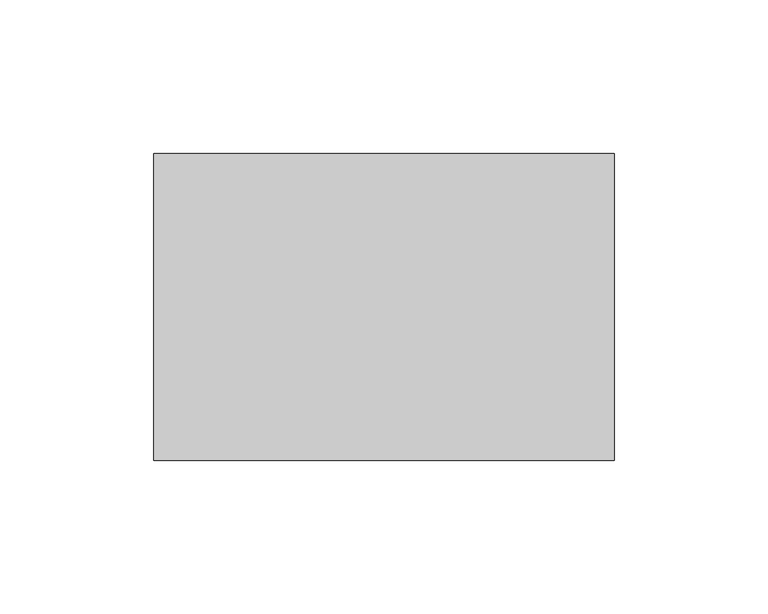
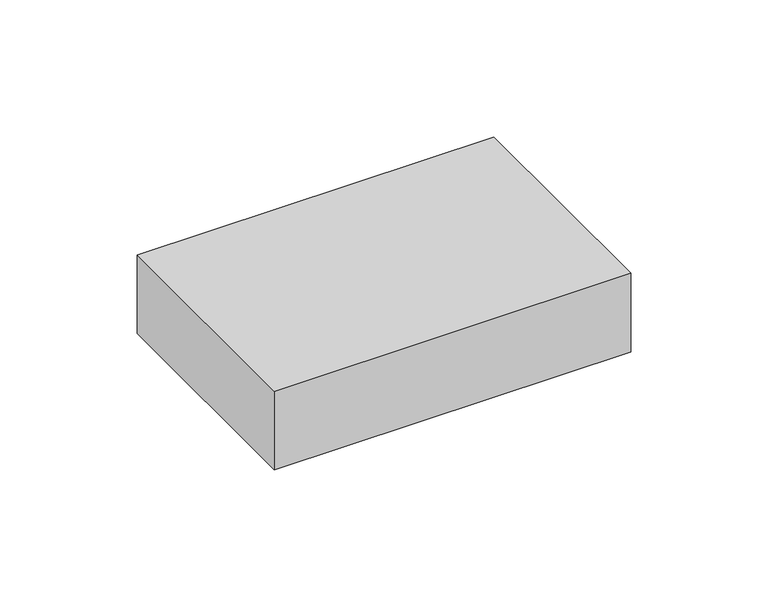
"""IFC4 building model written with IfcOpenShell, lengths in millimetres: furniture geometry, Pixel_Multiple : Pixel_Multiple."""

from ifc_helpers import new_model, si_unit, origin, origin_with_axes, place, context, project, spatial, polyline, outline, extrude, source, transform, mapped, element, save


def furniture_21a6de4b(model_context):
    return source(origin(), model_context, "Body", "SweptSolid", [
        extrude(outline(polyline([(150.0, 0.0), (0.0, 0.0), (0.0, 100.0), (150.0, 100.0), (150.0, 0.0)])), origin_with_axes(), (0.0, 0.0, 1.0), 35.0),
    ])


if __name__ == "__main__":
    model = new_model("IFC4")
    model_context = context("Model", 3, world=origin())
    ifc_project = project(units=[si_unit("LENGTHUNIT", "METRE", prefix="MILLI")], contexts=[model_context])
    site = spatial("IfcSite", under=ifc_project)
    building = spatial("IfcBuilding", under=site)
    placement = place(None, origin())
    furniture_shape = furniture_21a6de4b(model_context)
    element("IfcFurniture", 1, ObjectType="Pixel_Multiple : Pixel_Multiple", at=placement, inside=building, context=model_context, shape_type="MappedRepresentation", body=[
        mapped(furniture_shape, transform((0.0, 0.0, 0.0), x_axis=(1.0, 0.0, 0.0), y_axis=(0.0, 1.0, 0.0), z_axis=(0.0, 0.0, 1.0))),
    ])
    save(model, "model.ifc")
